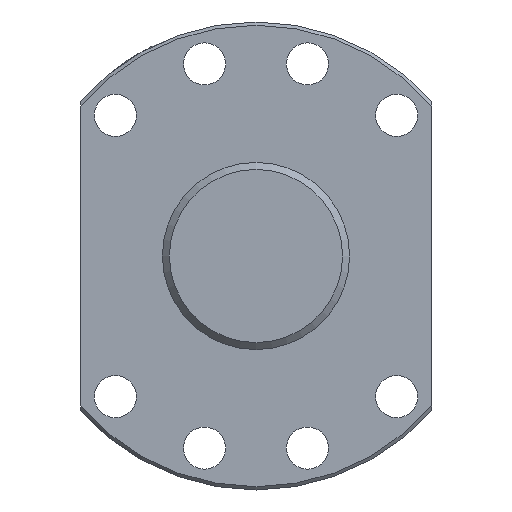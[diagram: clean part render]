
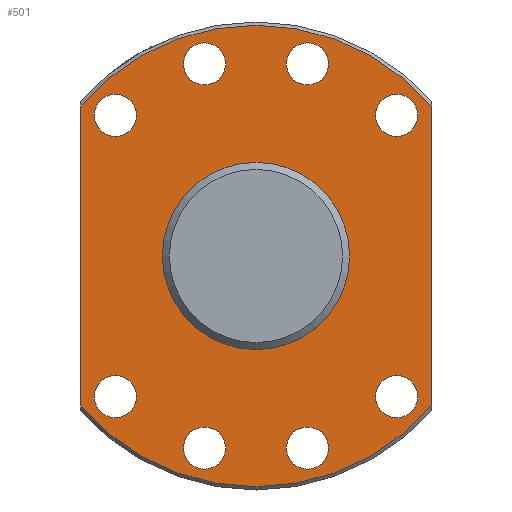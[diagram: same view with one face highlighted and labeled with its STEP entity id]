
A CAD part, left-side view. The second image highlights one B-rep face of the part: STEP entity #501.
In plain terms, the highlighted planar face has unit normal (-1, 0, 0).
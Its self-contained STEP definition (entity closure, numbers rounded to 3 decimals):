
#22=LINE('',#869,#30);
#23=LINE('',#870,#31);
#30=VECTOR('',#679,1000.);
#31=VECTOR('',#680,1000.);
#108=ORIENTED_EDGE('',*,*,#214,.F.);
#109=ORIENTED_EDGE('',*,*,#215,.F.);
#110=ORIENTED_EDGE('',*,*,#201,.F.);
#111=ORIENTED_EDGE('',*,*,#216,.F.);
#112=ORIENTED_EDGE('',*,*,#217,.T.);
#113=ORIENTED_EDGE('',*,*,#218,.T.);
#114=ORIENTED_EDGE('',*,*,#219,.T.);
#115=ORIENTED_EDGE('',*,*,#220,.T.);
#116=ORIENTED_EDGE('',*,*,#221,.T.);
#117=ORIENTED_EDGE('',*,*,#222,.T.);
#118=ORIENTED_EDGE('',*,*,#223,.T.);
#119=ORIENTED_EDGE('',*,*,#224,.T.);
#120=ORIENTED_EDGE('',*,*,#197,.F.);
#197=EDGE_CURVE('',#253,#253,#301,.F.);
#201=EDGE_CURVE('',#257,#258,#303,.T.);
#214=EDGE_CURVE('',#268,#269,#308,.T.);
#215=EDGE_CURVE('',#258,#268,#22,.T.);
#216=EDGE_CURVE('',#269,#257,#23,.T.);
#217=EDGE_CURVE('',#270,#270,#309,.T.);
#218=EDGE_CURVE('',#271,#271,#310,.T.);
#219=EDGE_CURVE('',#272,#272,#311,.T.);
#220=EDGE_CURVE('',#273,#273,#312,.T.);
#221=EDGE_CURVE('',#274,#274,#313,.T.);
#222=EDGE_CURVE('',#275,#275,#314,.T.);
#223=EDGE_CURVE('',#276,#276,#315,.T.);
#224=EDGE_CURVE('',#277,#277,#316,.T.);
#253=VERTEX_POINT('',#798);
#257=VERTEX_POINT('',#819);
#258=VERTEX_POINT('',#821);
#268=VERTEX_POINT('',#867);
#269=VERTEX_POINT('',#868);
#270=VERTEX_POINT('',#872);
#271=VERTEX_POINT('',#874);
#272=VERTEX_POINT('',#876);
#273=VERTEX_POINT('',#878);
#274=VERTEX_POINT('',#880);
#275=VERTEX_POINT('',#882);
#276=VERTEX_POINT('',#884);
#277=VERTEX_POINT('',#886);
#301=CIRCLE('',#562,20.);
#303=CIRCLE('',#565,49.3);
#308=CIRCLE('',#574,49.3);
#309=CIRCLE('',#575,4.5);
#310=CIRCLE('',#576,4.5);
#311=CIRCLE('',#577,4.5);
#312=CIRCLE('',#578,4.5);
#313=CIRCLE('',#579,4.5);
#314=CIRCLE('',#580,4.5);
#315=CIRCLE('',#581,4.5);
#316=CIRCLE('',#582,4.5);
#350=EDGE_LOOP('',(#108,#109,#110,#111));
#351=EDGE_LOOP('',(#112));
#352=EDGE_LOOP('',(#113));
#353=EDGE_LOOP('',(#114));
#354=EDGE_LOOP('',(#115));
#355=EDGE_LOOP('',(#116));
#356=EDGE_LOOP('',(#117));
#357=EDGE_LOOP('',(#118));
#358=EDGE_LOOP('',(#119));
#359=EDGE_LOOP('',(#120));
#424=FACE_BOUND('',#350,.T.);
#425=FACE_BOUND('',#351,.T.);
#426=FACE_BOUND('',#352,.T.);
#427=FACE_BOUND('',#353,.T.);
#428=FACE_BOUND('',#354,.T.);
#429=FACE_BOUND('',#355,.T.);
#430=FACE_BOUND('',#356,.T.);
#431=FACE_BOUND('',#357,.T.);
#432=FACE_BOUND('',#358,.T.);
#433=FACE_BOUND('',#359,.T.);
#484=PLANE('',#573);
#501=ADVANCED_FACE('',(#424,#425,#426,#427,#428,#429,#430,#431,#432,#433),
#484,.F.);
#562=AXIS2_PLACEMENT_3D('',#797,#649,#650);
#565=AXIS2_PLACEMENT_3D('',#820,#655,#656);
#573=AXIS2_PLACEMENT_3D('',#865,#675,#676);
#574=AXIS2_PLACEMENT_3D('',#866,#677,#678);
#575=AXIS2_PLACEMENT_3D('',#871,#681,#682);
#576=AXIS2_PLACEMENT_3D('',#873,#683,#684);
#577=AXIS2_PLACEMENT_3D('',#875,#685,#686);
#578=AXIS2_PLACEMENT_3D('',#877,#687,#688);
#579=AXIS2_PLACEMENT_3D('',#879,#689,#690);
#580=AXIS2_PLACEMENT_3D('',#881,#691,#692);
#581=AXIS2_PLACEMENT_3D('',#883,#693,#694);
#582=AXIS2_PLACEMENT_3D('',#885,#695,#696);
#649=DIRECTION('',(1.,0.,0.));
#650=DIRECTION('',(0.,0.,-1.));
#655=DIRECTION('',(1.,0.,0.));
#656=DIRECTION('',(0.,0.,-1.));
#675=DIRECTION('',(1.,0.,0.));
#676=DIRECTION('',(0.,0.,-1.));
#677=DIRECTION('',(1.,0.,0.));
#678=DIRECTION('',(0.,0.,-1.));
#679=DIRECTION('',(0.,1.,0.));
#680=DIRECTION('',(0.,-1.,0.));
#681=DIRECTION('',(1.,0.,0.));
#682=DIRECTION('',(0.,0.,-1.));
#683=DIRECTION('',(1.,0.,0.));
#684=DIRECTION('',(0.,0.,-1.));
#685=DIRECTION('',(1.,0.,0.));
#686=DIRECTION('',(0.,0.,-1.));
#687=DIRECTION('',(1.,0.,0.));
#688=DIRECTION('',(0.,0.,-1.));
#689=DIRECTION('',(1.,0.,0.));
#690=DIRECTION('',(0.,0.,-1.));
#691=DIRECTION('',(1.,0.,0.));
#692=DIRECTION('',(0.,0.,-1.));
#693=DIRECTION('',(1.,0.,0.));
#694=DIRECTION('',(0.,0.,-1.));
#695=DIRECTION('',(1.,0.,0.));
#696=DIRECTION('',(0.,0.,-1.));
#797=CARTESIAN_POINT('',(0.,0.,0.));
#798=CARTESIAN_POINT('',(0.,0.,-20.));
#819=CARTESIAN_POINT('',(0.,-32.004,37.5));
#820=CARTESIAN_POINT('',(0.,0.,0.));
#821=CARTESIAN_POINT('',(0.,-32.004,-37.5));
#865=CARTESIAN_POINT('',(0.,0.,0.));
#866=CARTESIAN_POINT('',(0.,0.,0.));
#867=CARTESIAN_POINT('',(0.,32.004,-37.5));
#868=CARTESIAN_POINT('',(0.,32.004,37.5));
#869=CARTESIAN_POINT('',(0.,-60.,-37.5));
#870=CARTESIAN_POINT('',(0.,60.,37.5));
#871=CARTESIAN_POINT('',(0.,-30.052,30.052));
#872=CARTESIAN_POINT('',(0.,-30.052,25.552));
#873=CARTESIAN_POINT('',(0.,30.052,-30.052));
#874=CARTESIAN_POINT('',(0.,30.052,-34.552));
#875=CARTESIAN_POINT('',(0.,-41.052,11.));
#876=CARTESIAN_POINT('',(0.,-41.052,6.5));
#877=CARTESIAN_POINT('',(0.,41.052,-11.));
#878=CARTESIAN_POINT('',(0.,41.052,-15.5));
#879=CARTESIAN_POINT('',(0.,-41.052,-11.));
#880=CARTESIAN_POINT('',(0.,-41.052,-15.5));
#881=CARTESIAN_POINT('',(0.,41.052,11.));
#882=CARTESIAN_POINT('',(0.,41.052,6.5));
#883=CARTESIAN_POINT('',(0.,-30.052,-30.052));
#884=CARTESIAN_POINT('',(0.,-30.052,-34.552));
#885=CARTESIAN_POINT('',(0.,30.052,30.052));
#886=CARTESIAN_POINT('',(0.,30.052,25.552));
